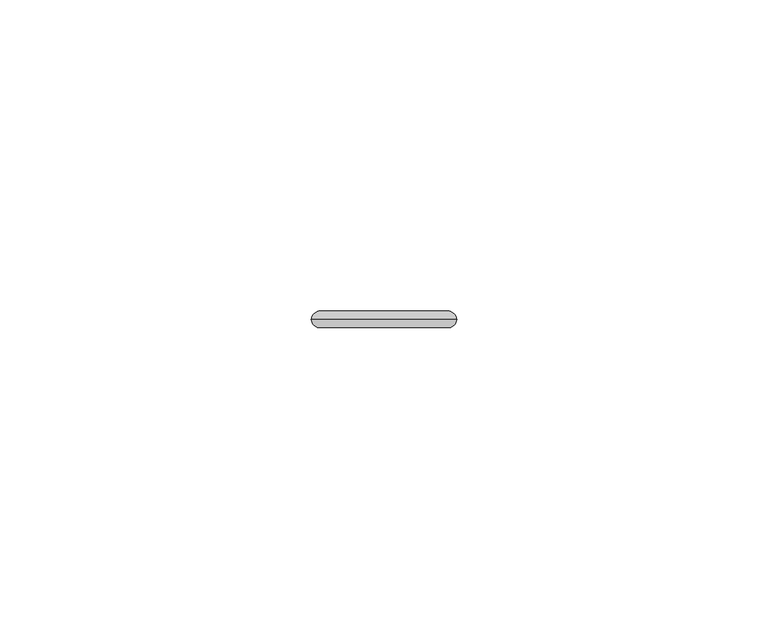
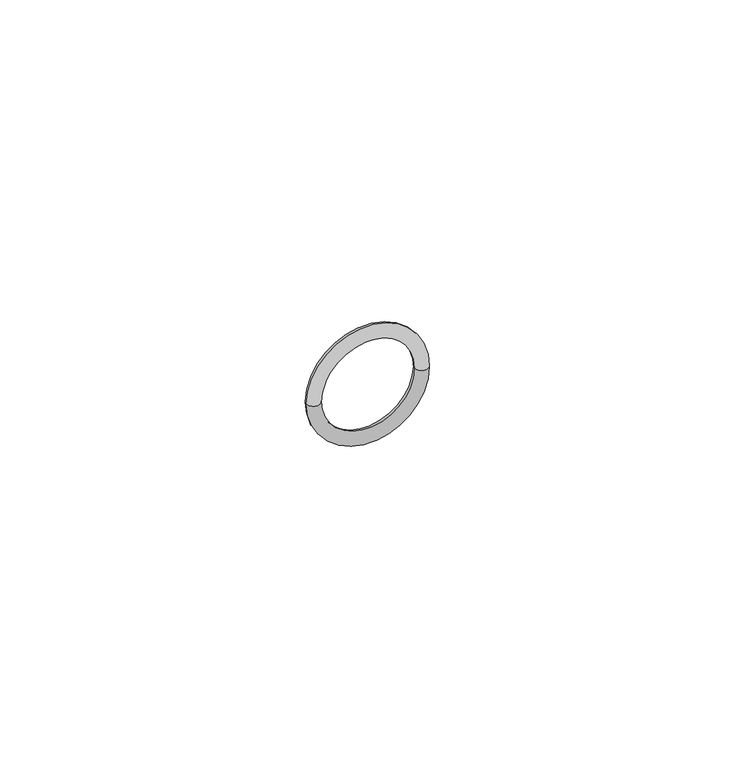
"""IFC4 building model written with IfcOpenShell, lengths in millimetres: pipe fitting geometry, VALTEC_VTi.990.I_Уплотнительное кольцо из FPM : VTi.990.I."""

from ifc_helpers import new_model, si_unit, point, frame, origin, place, context, project, spatial, circle_curve, ellipse_curve, trimmed, source, transform, mapped, element, save
from ifc_brep_helpers import revolved_surface, advanced_brep


def pipe_fitting_3809b1b9(model_context):
    return source(origin(), model_context, "Body", "AdvancedBrep", [
        advanced_brep(
        [(9.0, 0.0, 0.0), (-9.0, 0.0, 0.0), (-11.65, 0.0, 0.0), (11.65, 0.0, 0.0)],
        [
            (0, 1, circle_curve(frame((0.0, 0.0, 0.0), z_axis=(0.0, 1.0, 0.0), x_axis=(-1.0, 0.0, 0.0)), 9.0)),
            (1, 2, circle_curve(frame((-10.325, 0.0, 0.0), z_axis=(0.0, 0.0, -1.0), x_axis=(1.0, 0.0, 0.0)), 1.325)),
            (2, 3, circle_curve(frame((0.0, 0.0, 0.0), z_axis=(0.0, -1.0, 0.0), x_axis=(-1.0, 0.0, 0.0)), 11.65)),
            (3, 0, circle_curve(frame((10.325, 0.0, 0.0), z_axis=(0.0, 0.0, -1.0), x_axis=(-1.0, 0.0, 0.0)), 1.325)),
            (1, 0, circle_curve(frame((0.0, 0.0, 0.0), z_axis=(0.0, 1.0, 0.0), x_axis=(-1.0, 0.0, 0.0)), 9.0)),
            (3, 2, circle_curve(frame((0.0, 0.0, 0.0), z_axis=(0.0, -1.0, 0.0), x_axis=(-1.0, 0.0, 0.0)), 11.65)),
            (2, 1, circle_curve(frame((-10.325, 0.0, 0.0), z_axis=(0.0, 0.0, -1.0), x_axis=(1.0, 0.0, 0.0)), 1.325)),
            (0, 3, circle_curve(frame((10.325, 0.0, 0.0), z_axis=(0.0, 0.0, -1.0), x_axis=(-1.0, 0.0, 0.0)), 1.325)),
        ],
        [
            revolved_surface(trimmed(ellipse_curve(frame((-10.325, 0.0, 0.0), z_axis=(0.0, 0.0, 1.0), x_axis=(1.0, 0.0, 0.0)), 1.325, 1.325), [point((-11.65, 0.0, 0.0))], [point((-9.0, 0.0, 0.0))], True, "CARTESIAN"), (0.0, 1.0336847, 0.0), (0.0, -1.0, 0.0)),
            revolved_surface(trimmed(ellipse_curve(frame((-10.325, 0.0, 0.0), z_axis=(0.0, 0.0, 1.0), x_axis=(1.0, 0.0, 0.0)), 1.325, 1.325), [point((-9.0, 0.0, 0.0))], [point((-11.65, 0.0, 0.0))], True, "CARTESIAN"), (0.0, 1.0336847, 0.0), (0.0, -1.0, 0.0)),
        ],
        [
            (0, [[1, 2, 3, 4]]),
            (0, [[5, -4, 6, -2]]),
            (1, [[-3, 7, -1, 8]]),
            (1, [[-6, -8, -5, -7]]),
        ],
    ),
    ])


if __name__ == "__main__":
    model = new_model("IFC4")
    model_context = context("Model", 3, world=origin())
    ifc_project = project(units=[si_unit("LENGTHUNIT", "METRE", prefix="MILLI")], contexts=[model_context])
    site = spatial("IfcSite", under=ifc_project)
    building = spatial("IfcBuilding", under=site)
    placement = place(None, origin())
    pipe_fitting_shape = pipe_fitting_3809b1b9(model_context)
    element("IfcPipeFitting", 1, ObjectType="VALTEC_VTi.990.I_Уплотнительное кольцо из FPM : VTi.990.I", at=placement, inside=building, context=model_context, shape_type="MappedRepresentation", body=[
        mapped(pipe_fitting_shape, transform((0.0, 0.0, 0.0), x_axis=(1.0, 0.0, 0.0), y_axis=(0.0, 1.0, 0.0), z_axis=(0.0, 0.0, 1.0))),
    ])
    save(model, "model.ifc")
